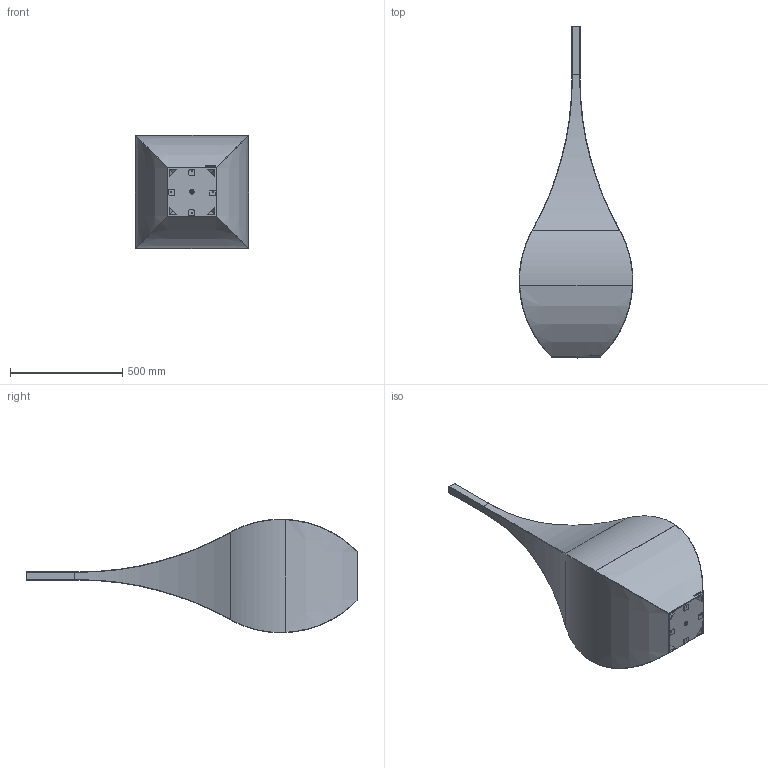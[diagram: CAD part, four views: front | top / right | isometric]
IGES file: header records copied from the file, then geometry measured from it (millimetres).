
Start section: SolidWorks IGES file using analytic representation for surfaces
Global section: file name: \\UTENTI\Dati Utenti\Tecnico\DC\2D - 3D per sito\3D\DeCastelli-3D-Shimla.igs; native system: SolidWorks 2022; preprocessor: SolidWorks 2022; author: maria; date: 240725.084344; units: millimetre
Bounding box: 506.81 x 1481.7 x 506.81 mm (x, y, z)
Surface area: 2675579.1 mm2 (no closed solid volume)
Topology: 0 solids, 0 shells, 128 faces, 1850 edges, 1850 vertices
Faces by surface type: revolution 73, bspline 55
